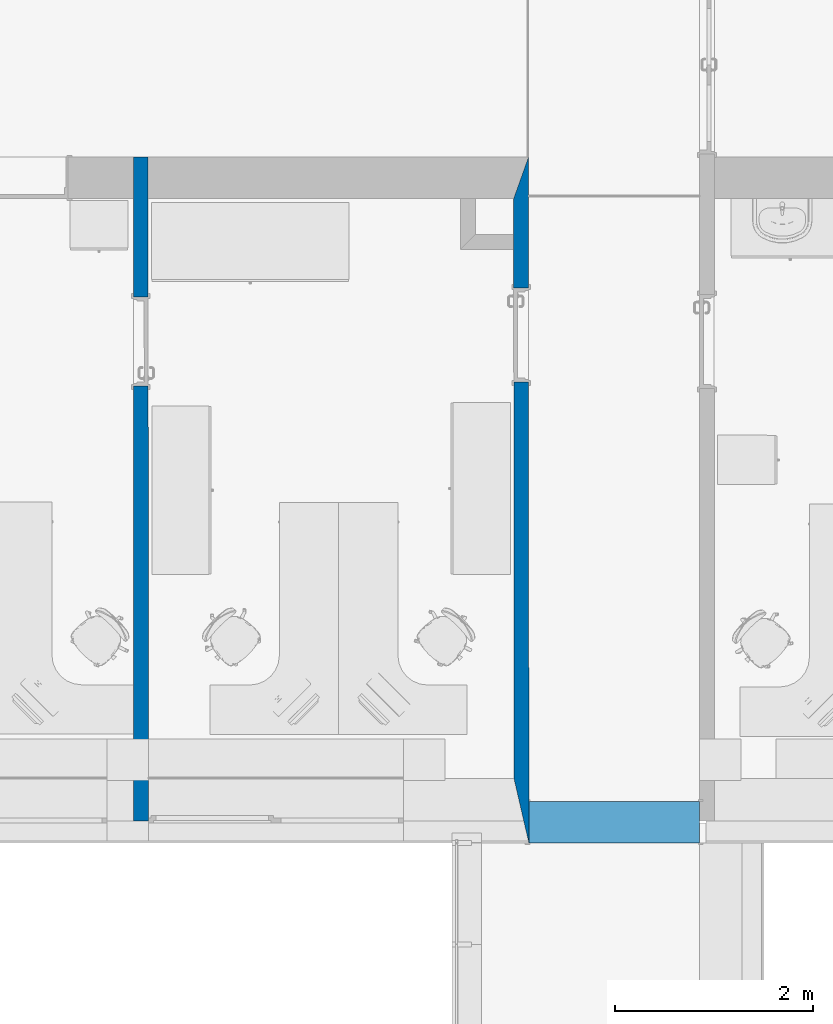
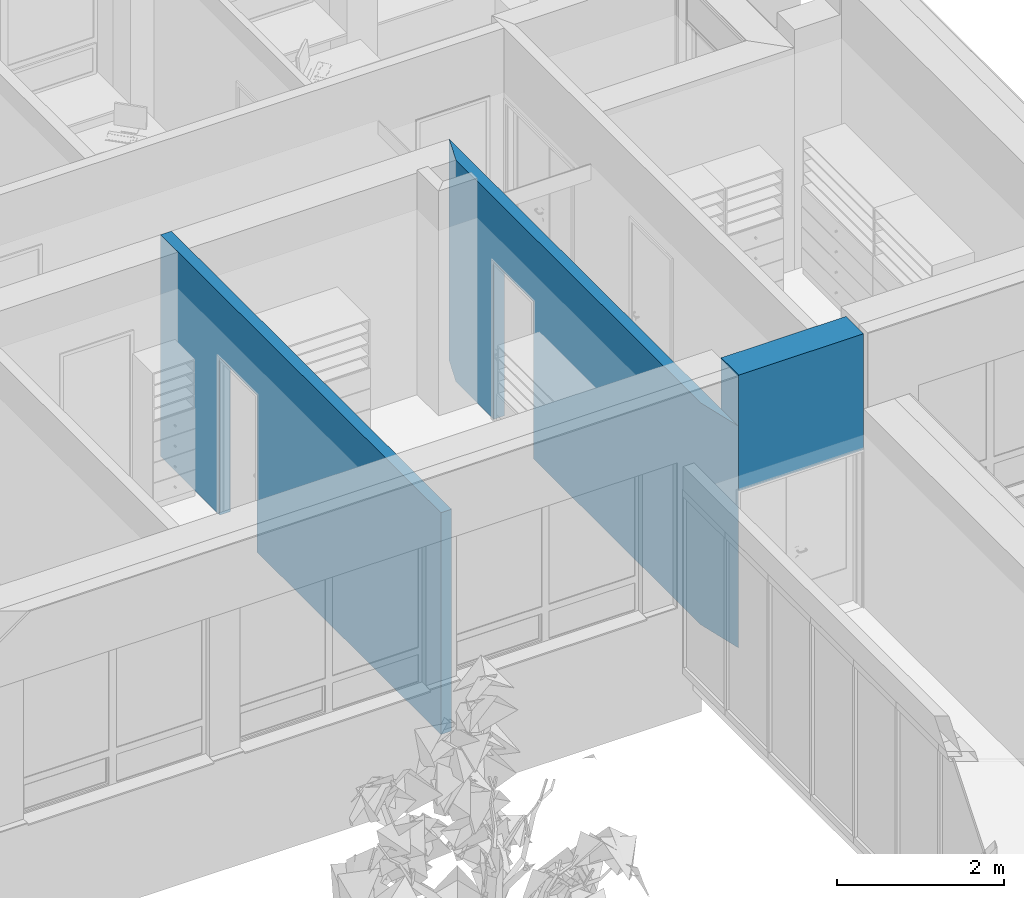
# One storey, part 19 of 194: 3 walls, 3 openings.
"""IFC2X3 building model written with IfcOpenShell, lengths in millimetres."""

from ifc_helpers import new_model, entity, si_unit, converted_unit, derived_unit, money_unit, direction, frame, origin_with_axes, origin_2d_with_axis, place, context, subcontext, project, spatial, polyline, rectangle, outline, extrude, material, layer, layer_set, layer_usage, type_object, element, save


model = new_model("IFC2X3")

# Units and contexts
model_context = context("Model", 3, precision=1e-05, world=origin_with_axes(), true_north=direction((0.0, 1.0)))
body_context = subcontext(model_context, "Body", "Model", "MODEL_VIEW")
ifc_project = project(units=[si_unit("LENGTHUNIT", "METRE", prefix="MILLI"), si_unit("AREAUNIT", "SQUARE_METRE"), si_unit("VOLUMEUNIT", "CUBIC_METRE"), converted_unit("PLANEANGLEUNIT", "DEGREE", entity("IfcPlaneAngleMeasure", 0.0174532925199), si_unit("PLANEANGLEUNIT", "RADIAN"), dimensions=[0, 0, 0, 0, 0, 0, 0]), si_unit("SOLIDANGLEUNIT", "STERADIAN"), money_unit("EUR"), converted_unit("TIMEUNIT", "Year", entity("IfcTimeMeasure", 31556926.0), si_unit("TIMEUNIT", "SECOND"), dimensions=[0, 0, 1, 0, 0, 0, 0]), si_unit("MASSUNIT", "GRAM", prefix="KILO"), si_unit("THERMODYNAMICTEMPERATUREUNIT", "DEGREE_CELSIUS"), si_unit("LUMINOUSINTENSITYUNIT", "LUMEN"), si_unit("ENERGYUNIT", "JOULE", prefix="MEGA"), derived_unit("THERMALCONDUCTANCEUNIT", [(si_unit("POWERUNIT", "WATT"), 1), (si_unit("LENGTHUNIT", "METRE"), -1), (si_unit("THERMODYNAMICTEMPERATUREUNIT", "KELVIN"), -1)]), derived_unit("SPECIFICHEATCAPACITYUNIT", [(si_unit("ENERGYUNIT", "JOULE"), 1), (si_unit("MASSUNIT", "GRAM", prefix="KILO"), -1), (si_unit("THERMODYNAMICTEMPERATUREUNIT", "KELVIN"), -1)]), derived_unit("MASSDENSITYUNIT", [(si_unit("MASSUNIT", "GRAM", prefix="KILO"), 1), (si_unit("VOLUMEUNIT", "CUBIC_METRE"), -1)])], contexts=[model_context])

# Site, building, storey
site_placement = place(None, origin_with_axes())
site = spatial("IfcSite", under=ifc_project, at=site_placement, Name="Site", CompositionType="ELEMENT")
building_placement = place(site_placement, origin_with_axes())
building = spatial("IfcBuilding", under=site, at=building_placement, Name="Building", CompositionType="ELEMENT")
storey_placement = place(building_placement, frame((0.0, 0.0, 3000.0), z_axis=(0.0, 0.0, 1.0), x_axis=(1.0, 0.0, 0.0)))
storey = spatial("IfcBuildingStorey", under=building, at=storey_placement, Name="2 KORRUS", CompositionType="ELEMENT", Elevation=3000.0)

# Wall, opening
ifc_material = material(Name="Kivi -Ol.Olev Konstruktsioon")
ifc_layer_1 = layer(ifc_material, 150.0, ventilated="UNKNOWN")
ifc_layer_set_1 = layer_set([ifc_layer_1], Name="ol.olev ss 150")
ifc_layer_usage_1 = layer_usage(ifc_layer_set_1, "AXIS2", "NEGATIVE", 0.0)
wall_type = type_object("IfcWallType", Name="SW - 022", PredefinedType="NOTDEFINED")
wall_1_placement = place(storey_placement, frame((34150.7114322, 65630.0466392, 0.0), z_axis=(0.0, 0.0, 1.0), x_axis=(0.000611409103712, -0.999999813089, 0.0)))
wall_1 = element("IfcWallStandardCase", 1, at=wall_1_placement, inside=storey, type_object=wall_type, material=ifc_layer_usage_1, Name="ol.olev ss 150", context=body_context, shape_type="SweptSolid", body=[
    extrude(outline(polyline([(9.09494701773e-10, -150.0), (6721.55123698, -150.0), (6721.55123698, 0.0), (0.0, 0.0), (9.09494701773e-10, -150.0)])), origin_with_axes(), (0.0, 0.0, 1.0), 3250.0),
])
opening_1_placement = place(wall_1_placement, frame((1866.80388628, -1.13686837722e-10, 0.0), z_axis=(0.0, 0.0, 1.0), x_axis=(1.0, 0.0, 0.0)))
element("IfcOpeningElement", 2, at=opening_1_placement, cuts=wall_1, Name="Siseuks * Door 22", context=body_context, shape_type="SweptSolid", body=[
    extrude(rectangle(XDim=900.0, YDim=2300.0, at=origin_2d_with_axis()), frame((0.0, -150.0, 1150.0), z_axis=(0.0, -1.0, 0.0), x_axis=(-1.0, 0.0, 0.0)), (0.0, 0.0, -1.0), 450.0),
    extrude(rectangle(XDim=974.0, YDim=2337.0, at=origin_2d_with_axis()), frame((0.0, -150.0, 1168.5), z_axis=(0.0, -1.0, 0.0), x_axis=(-1.0, 0.0, 0.0)), (0.0, 0.0, 1.0), 150.0),
    extrude(rectangle(XDim=974.0, YDim=2337.0, at=origin_2d_with_axis()), frame((9.09494701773e-10, 0.0, 1168.5), z_axis=(0.0, 1.0, 0.0), x_axis=(-1.0, 0.0, 0.0)), (0.0, 0.0, 1.0), 150.0),
])

ifc_layer_usage_2 = layer_usage(ifc_layer_set_1, "AXIS2", "NEGATIVE", 0.0)
wall_2_placement = place(storey_placement, frame((38000.74873, 65630.0283559, 0.0), z_axis=(0.0, 0.0, 1.0), x_axis=(0.000614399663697, -0.999999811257, 0.0)))
wall_2 = element("IfcWallStandardCase", 3, at=wall_2_placement, inside=storey, type_object=wall_type, material=ifc_layer_usage_2, Name="ol.olev ss 150", context=body_context, shape_type="SweptSolid", body=[
    extrude(outline(polyline([(419.907919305, -150.0), (6290.93226126, -150.0), (6941.00332257, 0.0), (0.0, 0.0), (419.907919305, -150.0)])), origin_with_axes(), (0.0, 0.0, 1.0), 3250.0),
])
opening_2_placement = place(wall_2_placement, frame((1801.01198281, 0.0, 0.0), z_axis=(0.0, 0.0, 1.0), x_axis=(1.0, 0.0, 0.0)))
element("IfcOpeningElement", 4, at=opening_2_placement, cuts=wall_2, Name="Siseuks * Door 22", context=body_context, shape_type="SweptSolid", body=[
    extrude(rectangle(XDim=950.000000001, YDim=2300.0, at=origin_2d_with_axis()), frame((0.0, 150.0, 1150.0), z_axis=(0.0, 1.0, 0.0), x_axis=(1.0, 0.0, 0.0)), (0.0, 0.0, -1.0), 450.0),
    extrude(rectangle(XDim=1024.0, YDim=2337.0, at=origin_2d_with_axis()), frame((0.0, 0.0, 1168.5), z_axis=(0.0, 1.0, 0.0), x_axis=(1.0, 0.0, 0.0)), (0.0, 0.0, 1.0), 150.0),
    extrude(rectangle(XDim=1024.0, YDim=2337.0, at=origin_2d_with_axis()), frame((-9.09494701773e-10, -150.0, 1168.5), z_axis=(0.0, -1.0, 0.0), x_axis=(1.0, 0.0, 0.0)), (0.0, 0.0, 1.0), 150.0),
])

ifc_layer_2 = layer(ifc_material, 420.0, ventilated="UNKNOWN")
ifc_layer_set_2 = layer_set([ifc_layer_2], Name="ol.olev ss 420")
ifc_layer_usage_3 = layer_usage(ifc_layer_set_2, "AXIS2", "POSITIVE", 0.0)
wall_3_placement = place(storey_placement, frame((38004.705735, 58689.0263434, 0.0), z_axis=(0.0, 0.0, 1.0), x_axis=(1.0, 0.0, 0.0)))
wall_3 = element("IfcWallStandardCase", 5, at=wall_3_placement, inside=storey, type_object=wall_type, material=ifc_layer_usage_3, Name="ol.olev ss 420", context=body_context, shape_type="SweptSolid", body=[
    extrude(outline(polyline([(0.0, 0.0), (1728.59661649, 0.0), (1728.5600721, 420.0), (0.0, 420.0), (0.0, 0.0)])), origin_with_axes(), (0.0, 0.0, 1.0), 4000.0),
])
opening_3_placement = place(wall_3_placement, frame((864.239408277, 0.0, 0.0), z_axis=(0.0, 0.0, 1.0), x_axis=(1.0, 0.0, 0.0)))
element("IfcOpeningElement", 6, at=opening_3_placement, cuts=wall_3, Name="Siseuks * Double Door 22", context=body_context, shape_type="SweptSolid", body=[
    extrude(rectangle(XDim=1728.60474252, YDim=2300.0, at=origin_2d_with_axis()), frame((0.0, 220.0, 1150.0), z_axis=(0.0, 1.0, 0.0), x_axis=(1.0, 0.0, 0.0)), (0.0, 0.0, -1.0), 640.0),
    extrude(rectangle(XDim=1728.60474252, YDim=2300.0, at=origin_2d_with_axis()), frame((0.0, 220.0, 1150.0), z_axis=(0.0, -1.0, 0.0), x_axis=(1.0, 0.0, 0.0)), (0.0, 0.0, -1.0), 620.0),
    extrude(rectangle(XDim=1802.60474252, YDim=2337.0, at=origin_2d_with_axis()), frame((0.0, 0.0, 1168.5), z_axis=(0.0, 1.0, 0.0), x_axis=(1.0, 0.0, 0.0)), (0.0, 0.0, -1.0), 620.0),
    extrude(rectangle(XDim=1802.60474252, YDim=2337.0, at=origin_2d_with_axis()), frame((0.0, 420.0, 1168.5), z_axis=(0.0, -1.0, 0.0), x_axis=(1.0, 0.0, 0.0)), (0.0, 0.0, -1.0), 620.0),
])

save(model, "model.ifc")
